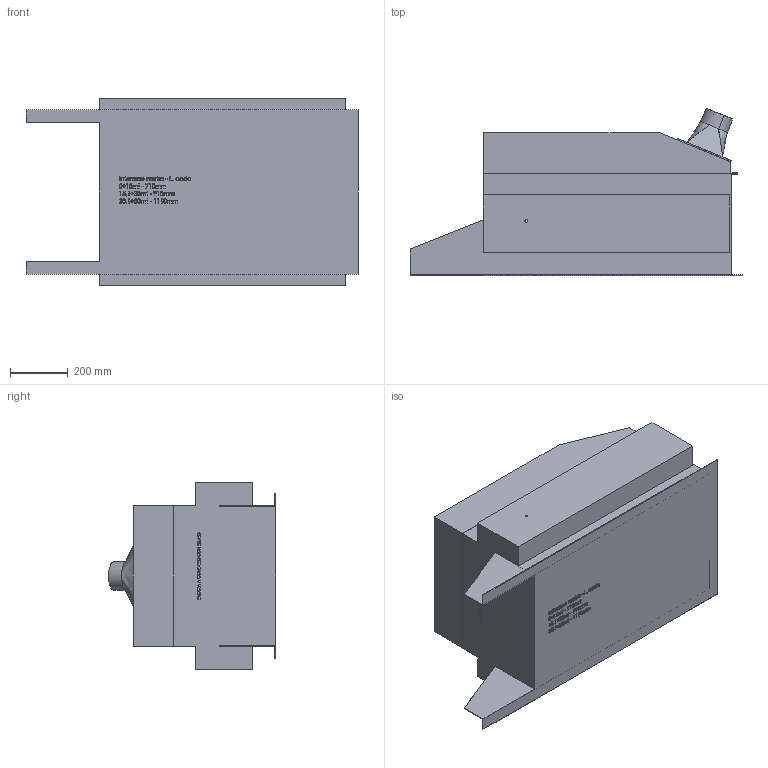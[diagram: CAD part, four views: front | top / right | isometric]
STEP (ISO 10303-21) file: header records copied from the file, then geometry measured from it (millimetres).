
FILE_DESCRIPTION (( 'STEP AP203' ), '1' );
FILE_NAME ('30763.step', '2019-03-14T14:32:36', ( 'PC' ), ( 'Hewlett-Packard Company' ), 'SwSTEP 2.0', 'SolidWorks 2016', '' );
FILE_SCHEMA (( 'CONFIG_CONTROL_DESIGN' ));
Products named in the file (1): 30763
Bounding box: 1150 x 579.42 x 650 mm (x, y, z)
Volume: 229011467 mm3; surface area: 3981914.6 mm2
Topology: 3 solids, 3 shells, 1165 faces, 3095 edges, 2057 vertices
Faces by surface type: plane 700, bspline 443, cylinder 20, cone 2
Entity records: 64426 total; most frequent: CARTESIAN_POINT 38359, ORIENTED_EDGE 6186, DIRECTION 3689, EDGE_CURVE 3093, VECTOR 2163, LINE 2163, VERTEX_POINT 2057, EDGE_LOOP 1304
